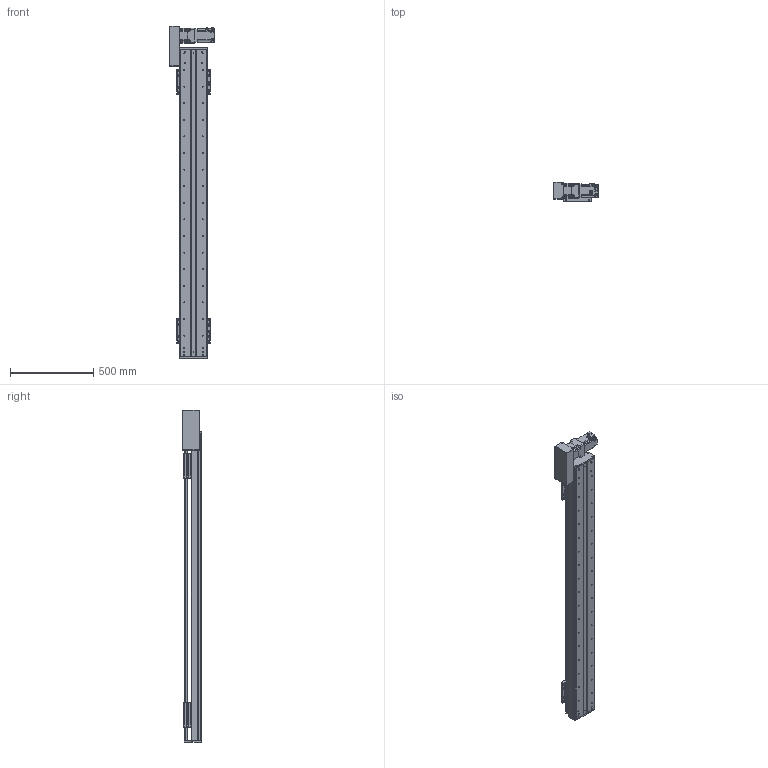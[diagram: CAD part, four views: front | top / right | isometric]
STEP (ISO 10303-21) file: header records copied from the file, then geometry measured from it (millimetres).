
FILE_DESCRIPTION(/* description */ (''),/* implementation_level */ '2;1');
FILE_NAME(/* name */ 'C:\Users\PC\Desktop\3D도면\STEP\DSB165-L7G-W1500-R.stp',/* time_stamp */ '2018-06-25T14:35:02+09:00',/* author */ ('PC'),/* organization */ (''),/* preprocessor_version */ 'ST-DEVELOPER v16.5',/* originating_system */ 'Autodesk Inventor 2017',/* authorisation */ '');
FILE_SCHEMA (('AUTOMOTIVE_DESIGN { 1 0 10303 214 3 1 1 }'));
Length unit declared in the file: millimetre
Products named in the file (12): DSB165-L; DSR165-BASE_S; hg-kr73_; ab0901-p0401300102; 11-DBS165 BELT COVER; DBS165-COVER; DBS165-COVER_1; DBS165-UP COVER; DBS165-TABLE(MSA20S); DSR126-SENSOR DOG; pm-y65_step; SENSOR BRACKET(EE-SX674A)
Assembly tree (16 placements, depth 2):
  DSB165-L
    DSR165-BASE_S
    hg-kr73_
    ab0901-p0401300102
    11-DBS165 BELT COVER
    DBS165-COVER
    DBS165-COVER_1
    DBS165-UP COVER
    DBS165-TABLE(MSA20S)  x2
    DSR126-SENSOR DOG
    pm-y65_step  x3
    SENSOR BRACKET(EE-SX674A)  x3
Bounding box: 270 x 115 x 2000 mm (x, y, z)
Volume: 11152549.5 mm3; surface area: 2597123.7 mm2
Topology: 17 solids, 22 shells, 1699 faces, 4555 edges, 3000 vertices
Faces by surface type: plane 926, cylinder 635, cone 126, sphere 8, torus 4
Full cylindrical faces by diameter (mm): 2.459 x20, 3.5 x6, 4.134 x42, 4.5 x18, 5 x27, 5.5 x36, 5.9 x4, 6 x8, 6.6 x14, 6.647 x54, 6.8 x1, 7 x4, 7.6 x4, 8 x1, 8.4 x1, 8.5 x24, 8.7 x1, 9.5 x32, 11 x6, 14 x16, 19 x1, 22 x1, 24 x1, 25 x1, 28 x1, 67 x1, 70 x2, 80 x1
Entity records: 36109 total; most frequent: DIRECTION 6396, CARTESIAN_POINT 6175, ORIENTED_EDGE 5598, EDGE_CURVE 2804, AXIS2_PLACEMENT_3D 2368, VERTEX_POINT 2009, EDGE_LOOP 1795, LINE 1660
